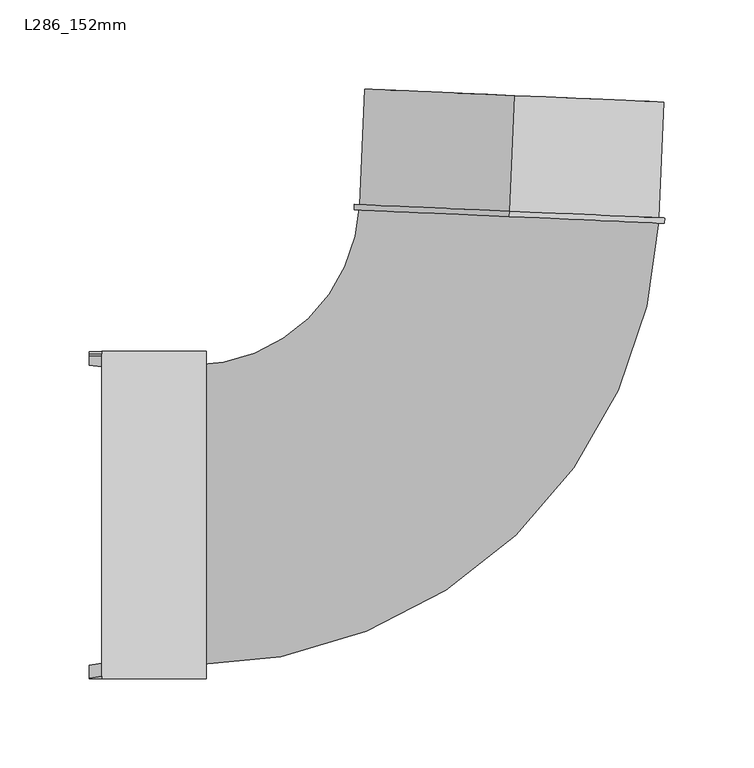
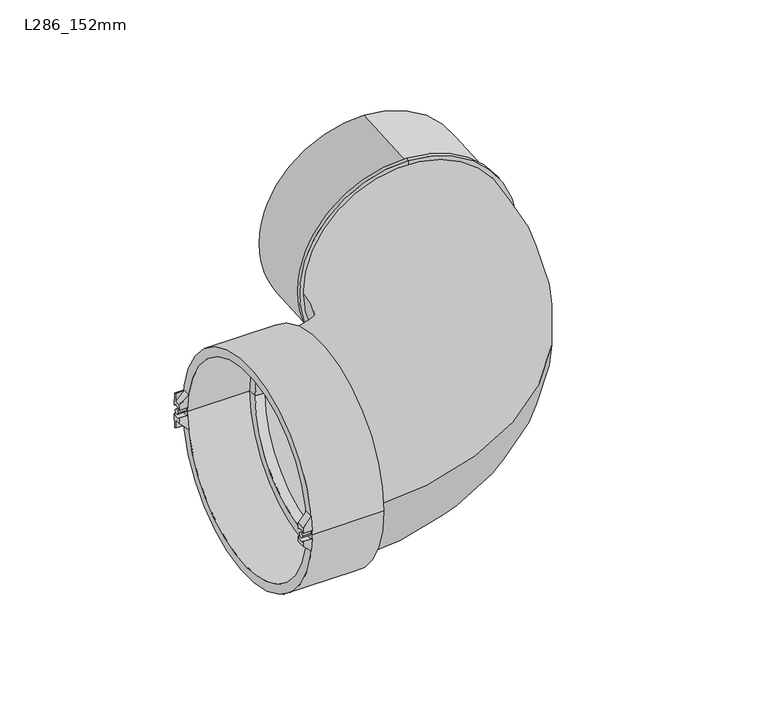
"""IFC4 building model written with IfcOpenShell, lengths in millimetres: pipe fitting geometry, Durapipe_PipeFitting_VulcatheneEnfusion_SingleSocketLongSweepBend_L28 : L286_152mm."""

from ifc_helpers import new_model, si_unit, point, frame, frame_2d, origin, place, context, project, spatial, polyline, circle_curve, ellipse_curve, trimmed, segment, composite_curve, outline, extrude, source, transform, mapped, element, save
from ifc_brep_helpers import plane_surface, cylinder_surface, revolved_surface, advanced_brep


def l286_152mm_ffb08b69(model_context):
    return source(origin(), model_context, "Body", "SolidModel", [
        advanced_brep(
        [(-228.6808468, -91.7817847, -3.5392791), (-228.6808468, -84.5817847, -3.3976752), (-228.6808468, -84.2767993, -7.94), (-228.6808468, -91.5061686, -7.94), (-221.5808468, -91.7817847, -3.5392791), (-221.5808468, -90.6168996, -15.0), (-221.5808468, -83.3103985, -15.0), (-221.5808468, -84.5817847, -3.3976752)],
        [
            (0, 1, circle_curve(frame((-228.6808468, -88.25, 0.0), z_axis=(1.0, 0.0, 0.0), x_axis=(0.0, -1.0, 0.0)), 5.0)),
            (1, 2, circle_curve(frame((-228.6808468, 0.0, 0.0), z_axis=(1.0, 0.0, 0.0), x_axis=(0.0, -1.0, 0.0)), 84.65)),
            (2, 3),
            (3, 0, circle_curve(frame((-228.6808468, 0.0, 0.0), z_axis=(-1.0, 0.0, 0.0), x_axis=(0.0, -1.0, 0.0)), 91.85)),
            (4, 5, circle_curve(frame((-221.5808468, 0.0, 0.0), z_axis=(1.0, 0.0, 0.0), x_axis=(0.0, -1.0, 0.0)), 91.85)),
            (5, 6),
            (6, 7, circle_curve(frame((-221.5808468, 0.0, 0.0), z_axis=(-1.0, 0.0, 0.0), x_axis=(0.0, -1.0, 0.0)), 84.65)),
            (7, 4, circle_curve(frame((-221.5808468, -88.25, 0.0), z_axis=(-1.0, 0.0, 0.0), x_axis=(0.0, -1.0, 0.0)), 5.0)),
            (6, 2, ellipse_curve(frame((-236.6658327, 0.0, 0.0), z_axis=(-0.7051064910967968, 0.0, -0.7091014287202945), x_axis=(0.7091014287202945, 0.0, -0.7051064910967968)), 120.0527879, 84.65)),
            (1, 7),
            (4, 0),
            (3, 5, ellipse_curve(frame((-236.6658327, 0.0, 0.0), z_axis=(0.7051064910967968, 0.0, 0.7091014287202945), x_axis=(-0.7091014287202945, 0.0, 0.7051064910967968)), 130.2640114, 91.85)),
        ],
        [
            plane_surface(frame((-228.6808468, 90.6168996, -15.0), z_axis=(-1.0, 0.0, 0.0), x_axis=(0.0, -1.0, 0.0))),
            plane_surface(frame((-221.5808468, 90.6168996, -15.0), z_axis=(1.0, 0.0, 0.0), x_axis=(0.0, 1.0, 0.0))),
            revolved_surface(polyline([(-151.53622927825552, -84.65, 0.0), (-321.7954361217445, -84.65, 0.0)]), (-221.5808468, 0.0, 0.0), (1.0, 0.0, 0.0)),
            cylinder_surface(frame((-221.5808468, 0.0, 0.0), z_axis=(-1.0, 0.0, 0.0), x_axis=(0.0, -1.0, 0.0)), 91.85),
            revolved_surface(polyline([(-228.6808468, -93.25, 0.0), (-221.5808468, -93.25, 0.0)]), (-221.5808468, -88.25, 0.0), (-1.0, 0.0, 0.0)),
            plane_surface(frame((-221.5808468, -104.876707, -15.0), z_axis=(-0.7051064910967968, 0.0, -0.7091014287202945), x_axis=(0.0, 1.0, 0.0))),
        ],
        [
            (0, [[1, 2, 3, 4]]),
            (1, [[5, 6, 7, 8]]),
            (2, [[-7, 9, -2, 10]]),
            (3, [[-5, 11, -4, 12]]),
            (4, [[-1, -11, -8, -10]]),
            (5, [[-3, -9, -6, -12]]),
        ],
    ),
        advanced_brep(
        [(-228.6808468, -84.5817847, 3.3976752), (-228.6808468, -91.7817847, 3.5392791), (-228.6808468, -91.5061686, 7.94), (-228.6808468, -84.2767993, 7.94), (-221.5808468, -90.6168996, 15.0), (-221.5808468, -91.7817847, 3.5392791), (-221.5808468, -84.5817847, 3.3976752), (-221.5808468, -83.3103985, 15.0)],
        [
            (0, 1, circle_curve(frame((-228.6808468, -88.25, 0.0), z_axis=(1.0, 0.0, 0.0), x_axis=(0.0, -1.0, 0.0)), 5.0)),
            (1, 2, circle_curve(frame((-228.6808468, 0.0, 0.0), z_axis=(-1.0, 0.0, 0.0), x_axis=(0.0, -1.0, 0.0)), 91.85)),
            (2, 3),
            (3, 0, circle_curve(frame((-228.6808468, 0.0, 0.0), z_axis=(1.0, 0.0, 0.0), x_axis=(0.0, -1.0, 0.0)), 84.65)),
            (4, 5, circle_curve(frame((-221.5808468, 0.0, 0.0), z_axis=(1.0, 0.0, 0.0), x_axis=(0.0, -1.0, 0.0)), 91.85)),
            (5, 6, circle_curve(frame((-221.5808468, -88.25, 0.0), z_axis=(-1.0, 0.0, 0.0), x_axis=(0.0, -1.0, 0.0)), 5.0)),
            (6, 7, circle_curve(frame((-221.5808468, 0.0, 0.0), z_axis=(-1.0, 0.0, 0.0), x_axis=(0.0, -1.0, 0.0)), 84.65)),
            (7, 4),
            (6, 0),
            (3, 7, ellipse_curve(frame((-236.6658327, 0.0, 0.0), z_axis=(-0.7051064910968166, 0.0, 0.7091014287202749), x_axis=(0.7091014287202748, 0.0, 0.7051064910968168)), 120.0527879, 84.65)),
            (4, 2, ellipse_curve(frame((-236.6658327, 0.0, 0.0), z_axis=(0.7051064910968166, 0.0, -0.7091014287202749), x_axis=(-0.7091014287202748, 0.0, -0.7051064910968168)), 130.2640114, 91.85)),
            (1, 5),
        ],
        [
            plane_surface(frame((-228.6808468, 90.6168996, -15.0), z_axis=(-1.0, 0.0, 0.0), x_axis=(0.0, -1.0, 0.0))),
            plane_surface(frame((-221.5808468, 90.6168996, -15.0), z_axis=(1.0, 0.0, 0.0), x_axis=(0.0, 1.0, 0.0))),
            revolved_surface(polyline([(-151.5362292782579, -84.65, 0.0), (-321.7954361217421, -84.65, 0.0)]), (-221.5808468, 0.0, 0.0), (1.0, 0.0, 0.0)),
            cylinder_surface(frame((-221.5808468, 0.0, 0.0), z_axis=(-1.0, 0.0, 0.0), x_axis=(0.0, -1.0, 0.0)), 91.85),
            revolved_surface(polyline([(-228.6808468, -93.25, 0.0), (-221.5808468, -93.25, 0.0)]), (-221.5808468, -88.25, 0.0), (-1.0, 0.0, 0.0)),
            plane_surface(frame((-228.6808468, -104.876707, 7.94), z_axis=(-0.7051064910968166, 0.0, 0.7091014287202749), x_axis=(0.0, 1.0, 0.0))),
        ],
        [
            (0, [[1, 2, 3, 4]]),
            (1, [[5, 6, 7, 8]]),
            (2, [[-7, 9, -4, 10]]),
            (3, [[-5, 11, -2, 12]]),
            (4, [[-1, -9, -6, -12]]),
            (5, [[-3, -11, -8, -10]]),
        ],
    ),
        advanced_brep(
        [(-228.6808468, 91.7817847, -3.5392791), (-228.6808468, 90.6168996, -15.0), (-228.6808468, 89.536983, -15.0), (-228.6808468, 89.536983, -7.94), (-228.6808468, 84.2767993, -7.94), (-228.6808468, 84.5817847, -3.3976752), (-221.5808468, 90.6168996, -15.0), (-221.5808468, 91.7817847, -3.5392791), (-221.5808468, 84.5817847, -3.3976752), (-221.5808468, 83.3103985, -15.0), (-221.5808468, 89.536983, -15.0)],
        [
            (0, 1, circle_curve(frame((-228.6808468, 0.0, 0.0), z_axis=(-1.0, 0.0, 0.0), x_axis=(0.0, -1.0, 0.0)), 91.85)),
            (1, 2),
            (2, 3),
            (3, 4),
            (4, 5, circle_curve(frame((-228.6808468, 0.0, 0.0), z_axis=(1.0, 0.0, 0.0), x_axis=(0.0, -1.0, 0.0)), 84.65)),
            (5, 0, circle_curve(frame((-228.6808468, 88.25, 0.0), z_axis=(1.0, 0.0, 0.0), x_axis=(0.0, -1.0, 0.0)), 5.0)),
            (6, 7, circle_curve(frame((-221.5808468, 0.0, 0.0), z_axis=(1.0, 0.0, 0.0), x_axis=(0.0, -1.0, 0.0)), 91.85)),
            (7, 8, circle_curve(frame((-221.5808468, 88.25, 0.0), z_axis=(-1.0, 0.0, 0.0), x_axis=(0.0, -1.0, 0.0)), 5.0)),
            (8, 9, circle_curve(frame((-221.5808468, 0.0, 0.0), z_axis=(-1.0, 0.0, 0.0), x_axis=(0.0, -1.0, 0.0)), 84.65)),
            (9, 10),
            (10, 6),
            (8, 5),
            (4, 9, ellipse_curve(frame((-236.6658327, 0.0, 0.0), z_axis=(-0.7051064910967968, 0.0, -0.7091014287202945), x_axis=(0.7091014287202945, 0.0, -0.7051064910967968)), 120.0527879, 84.65)),
            (6, 1),
            (0, 7),
            (3, 10),
            (10, 2),
        ],
        [
            plane_surface(frame((-228.6808468, 90.6168996, -15.0), z_axis=(-1.0, 0.0, 0.0), x_axis=(0.0, -1.0, 0.0))),
            plane_surface(frame((-221.5808468, 90.6168996, -15.0), z_axis=(1.0, 0.0, 0.0), x_axis=(0.0, 1.0, 0.0))),
            revolved_surface(polyline([(-151.53622927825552, -84.65, 0.0), (-321.7954361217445, -84.65, 0.0)]), (-221.5808468, 0.0, 0.0), (1.0, 0.0, 0.0)),
            cylinder_surface(frame((-221.5808468, 0.0, 0.0), z_axis=(-1.0, 0.0, 0.0), x_axis=(0.0, -1.0, 0.0)), 91.85),
            revolved_surface(polyline([(-228.6808468, 83.25, 0.0), (-221.5808468, 83.25, 0.0)]), (-221.5808468, 88.25, 0.0), (-1.0, 0.0, 0.0)),
            plane_surface(frame((-221.5808468, -104.876707, -15.0), z_axis=(-0.7051064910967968, 0.0, -0.7091014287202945), x_axis=(0.0, 1.0, 0.0))),
            plane_surface(frame((-228.6808468, 90.6168996, -15.0), z_axis=(0.0, 0.0, -1.0), x_axis=(1.0, 0.0, 0.0))),
            plane_surface(frame((-228.6808468, 89.536983, 7.94), z_axis=(0.0, -1.0000000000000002, 0.0), x_axis=(-0.7091014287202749, 0.0, -0.7051064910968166))),
        ],
        [
            (0, [[1, 2, 3, 4, 5, 6]]),
            (1, [[7, 8, 9, 10, 11]]),
            (2, [[-9, 12, -5, 13]]),
            (3, [[14, -1, 15, -7]]),
            (4, [[-6, -12, -8, -15]]),
            (5, [[16, -10, -13, -4]]),
            (6, [[-14, -11, 17, -2]]),
            (7, [[-16, -3, -17]]),
        ],
    ),
        advanced_brep(
        [(-228.6808468, 90.6168996, 15.0), (-228.6808468, 91.7817847, 3.5392791), (-228.6808468, 84.5817847, 3.3976752), (-228.6808468, 84.2767993, 7.94), (-228.6808468, 89.536983, 7.94), (-228.6808468, 89.536983, 15.0), (-221.5808468, 91.7817847, 3.5392791), (-221.5808468, 90.6168996, 15.0), (-221.5808468, 89.536983, 15.0), (-221.5808468, 83.3103985, 15.0), (-221.5808468, 84.5817847, 3.3976752)],
        [
            (0, 1, circle_curve(frame((-228.6808468, 0.0, 0.0), z_axis=(-1.0, 0.0, 0.0), x_axis=(0.0, -1.0, 0.0)), 91.85)),
            (1, 2, circle_curve(frame((-228.6808468, 88.25, 0.0), z_axis=(1.0, 0.0, 0.0), x_axis=(0.0, -1.0, 0.0)), 5.0)),
            (2, 3, circle_curve(frame((-228.6808468, 0.0, 0.0), z_axis=(1.0, 0.0, 0.0), x_axis=(0.0, -1.0, 0.0)), 84.65)),
            (3, 4),
            (4, 5),
            (5, 0),
            (6, 7, circle_curve(frame((-221.5808468, 0.0, 0.0), z_axis=(1.0, 0.0, 0.0), x_axis=(0.0, -1.0, 0.0)), 91.85)),
            (7, 8),
            (8, 9),
            (9, 10, circle_curve(frame((-221.5808468, 0.0, 0.0), z_axis=(-1.0, 0.0, 0.0), x_axis=(0.0, -1.0, 0.0)), 84.65)),
            (10, 6, circle_curve(frame((-221.5808468, 88.25, 0.0), z_axis=(-1.0, 0.0, 0.0), x_axis=(0.0, -1.0, 0.0)), 5.0)),
            (9, 3, ellipse_curve(frame((-236.6658327, 0.0, 0.0), z_axis=(-0.7051064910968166, 0.0, 0.7091014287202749), x_axis=(0.7091014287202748, 0.0, 0.7051064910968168)), 120.0527879, 84.65)),
            (2, 10),
            (0, 7),
            (6, 1),
            (8, 4),
            (5, 8),
        ],
        [
            plane_surface(frame((-228.6808468, 90.6168996, -15.0), z_axis=(-1.0, 0.0, 0.0), x_axis=(0.0, -1.0, 0.0))),
            plane_surface(frame((-221.5808468, 90.6168996, -15.0), z_axis=(1.0, 0.0, 0.0), x_axis=(0.0, 1.0, 0.0))),
            revolved_surface(polyline([(-151.5362292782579, -84.65, 0.0), (-321.7954361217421, -84.65, 0.0)]), (-221.5808468, 0.0, 0.0), (1.0, 0.0, 0.0)),
            cylinder_surface(frame((-221.5808468, 0.0, 0.0), z_axis=(-1.0, 0.0, 0.0), x_axis=(0.0, -1.0, 0.0)), 91.85),
            revolved_surface(polyline([(-228.6808468, 83.25, 0.0), (-221.5808468, 83.25, 0.0)]), (-221.5808468, 88.25, 0.0), (-1.0, 0.0, 0.0)),
            plane_surface(frame((-228.6808468, -104.876707, 7.94), z_axis=(-0.7051064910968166, 0.0, 0.7091014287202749), x_axis=(0.0, 1.0, 0.0))),
            plane_surface(frame((-228.6808468, 83.3103985, 15.0), z_axis=(0.0, 0.0, 1.0), x_axis=(1.0, 0.0, 0.0))),
            plane_surface(frame((-228.6808468, 89.536983, 7.94), z_axis=(0.0, -1.0000000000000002, 0.0), x_axis=(-0.7091014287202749, 0.0, -0.7051064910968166))),
        ],
        [
            (0, [[1, 2, 3, 4, 5, 6]]),
            (1, [[7, 8, 9, 10, 11]]),
            (2, [[-10, 12, -3, 13]]),
            (3, [[14, -7, 15, -1]]),
            (4, [[-2, -15, -11, -13]]),
            (5, [[16, -4, -12, -9]]),
            (6, [[-14, -6, 17, -8]]),
            (7, [[-16, -17, -5]]),
        ],
    ),
        extrude(outline(composite_curve([segment(trimmed(circle_curve(frame_2d((88.25, 0.0)), 2.0), [point((90.25, 0.0))], [point((86.25, 0.0))], False, "CARTESIAN"), True, "CONTINUOUS"), segment(trimmed(circle_curve(frame_2d((88.25, 0.0)), 2.0), [point((86.25, 0.0))], [point((90.25, 0.0))], False, "CARTESIAN"), True, "CONTINUOUS")], self_intersect=False)), frame((-228.6808468, 0.0, 0.0), z_axis=(1.0, 0.0, 0.0), x_axis=(0.0, 1.0, 0.0)), (0.0, 0.0, 1.0), 7.1),
        extrude(outline(composite_curve([segment(trimmed(circle_curve(frame_2d((-88.25, 0.0)), 2.0), [point((-86.25, 0.0))], [point((-90.25, 0.0))], False, "CARTESIAN"), True, "CONTINUOUS"), segment(trimmed(circle_curve(frame_2d((-88.25, 0.0)), 2.0), [point((-90.25, 0.0))], [point((-86.25, 0.0))], False, "CARTESIAN"), True, "CONTINUOUS")], self_intersect=False)), frame((-228.6808468, 0.0, 0.0), z_axis=(1.0, 0.0, 0.0), x_axis=(0.0, 1.0, 0.0)), (0.0, 0.0, 1.0), 7.1),
        advanced_brep(
        [(7.3184977, 167.6211566, -87.2), (7.3184977, 167.6211566, 87.2), (7.3184977, 167.6211566, 77.1), (7.3184977, 167.6211566, -77.1), (7.4493559, 170.6183013, -87.2), (7.4493559, 170.6183013, 87.2), (7.4493559, 170.6183013, -84.2), (7.4493559, 170.6183013, 84.2), (10.2846161, 235.5564357, -84.2), (10.2846161, 235.5564357, 84.2), (10.2846161, 235.5564357, -77.1), (10.2846161, 235.5564357, 77.1)],
        [
            (0, 1, circle_curve(frame((7.3184977, 167.6211566, 0.0), z_axis=(-0.04361938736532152, -0.9990482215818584, 0.0), x_axis=(0.0, 0.0, 1.0)), 87.2)),
            (1, 2),
            (2, 3, circle_curve(frame((7.3184977, 167.6211566, 0.0), z_axis=(0.04361938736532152, 0.9990482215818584, 0.0), x_axis=(0.0, 0.0, 1.0)), 77.1)),
            (3, 0),
            (1, 0, circle_curve(frame((7.3184977, 167.6211566, 0.0), z_axis=(-0.04361938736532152, -0.9990482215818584, 0.0), x_axis=(0.0, 0.0, 1.0)), 87.2)),
            (3, 2, circle_curve(frame((7.3184977, 167.6211566, 0.0), z_axis=(0.04361938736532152, 0.9990482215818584, 0.0), x_axis=(0.0, 0.0, 1.0)), 77.1)),
            (4, 5, circle_curve(frame((7.4493559, 170.6183013, 0.0), z_axis=(-0.04361938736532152, -0.9990482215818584, 0.0), x_axis=(0.0, 0.0, 1.0)), 87.2)),
            (5, 1),
            (0, 4),
            (5, 4, circle_curve(frame((7.4493559, 170.6183013, 0.0), z_axis=(-0.04361938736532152, -0.9990482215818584, 0.0), x_axis=(0.0, 0.0, 1.0)), 87.2)),
            (6, 7, circle_curve(frame((7.4493559, 170.6183013, 0.0), z_axis=(-0.04361938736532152, -0.9990482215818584, 0.0), x_axis=(0.0, 0.0, 1.0)), 84.2)),
            (7, 5),
            (4, 6),
            (7, 6, circle_curve(frame((7.4493559, 170.6183013, 0.0), z_axis=(-0.04361938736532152, -0.9990482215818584, 0.0), x_axis=(0.0, 0.0, 1.0)), 84.2)),
            (8, 9, circle_curve(frame((10.2846161, 235.5564357, 0.0), z_axis=(-0.04361938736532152, -0.9990482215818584, 0.0), x_axis=(0.0, 0.0, 1.0)), 84.2)),
            (9, 7),
            (6, 8),
            (9, 8, circle_curve(frame((10.2846161, 235.5564357, 0.0), z_axis=(-0.04361938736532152, -0.9990482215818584, 0.0), x_axis=(0.0, 0.0, 1.0)), 84.2)),
            (10, 11, circle_curve(frame((10.2846161, 235.5564357, 0.0), z_axis=(-0.04361938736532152, -0.9990482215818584, 0.0), x_axis=(0.0, 0.0, 1.0)), 77.1)),
            (11, 9),
            (8, 10),
            (11, 10, circle_curve(frame((10.2846161, 235.5564357, 0.0), z_axis=(-0.04361938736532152, -0.9990482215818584, 0.0), x_axis=(0.0, 0.0, 1.0)), 77.1)),
            (2, 11),
            (10, 3),
        ],
        [
            plane_surface(frame((7.3184977, 167.6211566, 0.0), z_axis=(-0.04361938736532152, -0.9990482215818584, 0.0), x_axis=(0.0, 0.0, 1.0))),
            cylinder_surface(frame((121.4729688, 2782.1883984, 0.0), z_axis=(0.04361938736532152, 0.9990482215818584, 0.0), x_axis=(0.0, 0.0, 1.0)), 87.2),
            plane_surface(frame((7.4493559, 170.6183013, 0.0), z_axis=(0.04361938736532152, 0.9990482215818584, 0.0), x_axis=(0.0, 0.0, 1.0))),
            cylinder_surface(frame((121.4729688, 2782.1883984, 0.0), z_axis=(0.04361938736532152, 0.9990482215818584, 0.0), x_axis=(0.0, 0.0, 1.0)), 84.2),
            plane_surface(frame((10.2846161, 235.5564357, 0.0), z_axis=(0.04361938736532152, 0.9990482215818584, 0.0), x_axis=(0.0, 0.0, 1.0))),
            revolved_surface(polyline([(10.284616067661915, 235.55643570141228, 77.1), (7.318497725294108, 167.62115659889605, 77.1)]), (121.4729688, 2782.1883984, 0.0), (0.04361938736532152, 0.9990482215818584, 0.0)),
        ],
        [
            (0, [[1, 2, 3, 4]]),
            (0, [[5, -4, 6, -2]]),
            (1, [[7, 8, -1, 9]]),
            (1, [[10, -9, -5, -8]]),
            (2, [[11, 12, -7, 13]]),
            (2, [[14, -13, -10, -12]]),
            (3, [[15, 16, -11, 17]]),
            (3, [[18, -17, -14, -16]]),
            (4, [[19, 20, -15, 21]]),
            (4, [[22, -21, -18, -20]]),
            (5, [[-3, 23, -19, 24]]),
            (5, [[-6, -24, -22, -23]]),
        ],
    ),
        advanced_brep(
        [(-162.7808468, 92.0, 0.0), (-162.7808468, -92.0, 0.0), (-221.5808468, -92.0, 0.0), (-221.5808468, 92.0, 0.0), (-162.7808468, 77.1, 0.0), (-162.7808468, -77.1, 0.0), (-170.7808468, 77.1, 0.0), (-170.7808468, -77.1, 0.0), (-170.7808468, 84.5, 0.0), (-170.7808468, -84.5, 0.0), (-221.5808468, 84.5, 0.0), (-221.5808468, -84.5, 0.0)],
        [
            (0, 1, circle_curve(frame((-162.7808468, 0.0, 0.0), z_axis=(-1.0, 0.0, 0.0), x_axis=(0.0, -1.0, 0.0)), 92.0)),
            (1, 2),
            (2, 3, circle_curve(frame((-221.5808468, 0.0, 0.0), z_axis=(1.0, 0.0, 0.0), x_axis=(0.0, -1.0, 0.0)), 92.0)),
            (3, 0),
            (1, 0, circle_curve(frame((-162.7808468, 0.0, 0.0), z_axis=(-1.0, 0.0, 0.0), x_axis=(0.0, -1.0, 0.0)), 92.0)),
            (3, 2, circle_curve(frame((-221.5808468, 0.0, 0.0), z_axis=(1.0, 0.0, 0.0), x_axis=(0.0, -1.0, 0.0)), 92.0)),
            (4, 5, circle_curve(frame((-162.7808468, 0.0, 0.0), z_axis=(-1.0, 0.0, 0.0), x_axis=(0.0, -1.0, 0.0)), 77.1)),
            (5, 1),
            (0, 4),
            (5, 4, circle_curve(frame((-162.7808468, 0.0, 0.0), z_axis=(-1.0, 0.0, 0.0), x_axis=(0.0, -1.0, 0.0)), 77.1)),
            (6, 7, circle_curve(frame((-170.7808468, 0.0, 0.0), z_axis=(-1.0, 0.0, 0.0), x_axis=(0.0, -1.0, 0.0)), 77.1)),
            (7, 5),
            (4, 6),
            (7, 6, circle_curve(frame((-170.7808468, 0.0, 0.0), z_axis=(-1.0, 0.0, 0.0), x_axis=(0.0, -1.0, 0.0)), 77.1)),
            (8, 9, circle_curve(frame((-170.7808468, 0.0, 0.0), z_axis=(-1.0, 0.0, 0.0), x_axis=(0.0, -1.0, 0.0)), 84.5)),
            (9, 7),
            (6, 8),
            (9, 8, circle_curve(frame((-170.7808468, 0.0, 0.0), z_axis=(-1.0, 0.0, 0.0), x_axis=(0.0, -1.0, 0.0)), 84.5)),
            (10, 11, circle_curve(frame((-221.5808468, 0.0, 0.0), z_axis=(-1.0, 0.0, 0.0), x_axis=(0.0, -1.0, 0.0)), 84.5)),
            (11, 9),
            (8, 10),
            (11, 10, circle_curve(frame((-221.5808468, 0.0, 0.0), z_axis=(-1.0, 0.0, 0.0), x_axis=(0.0, -1.0, 0.0)), 84.5)),
            (2, 11),
            (10, 3),
        ],
        [
            cylinder_surface(frame((1571.2518184, 0.0, 0.0), z_axis=(1.0, 0.0, 0.0), x_axis=(0.0, -1.0, 0.0)), 92.0),
            plane_surface(frame((-162.7808468, 0.0, 0.0), z_axis=(1.0, 0.0, 0.0), x_axis=(0.0, -1.0, 0.0))),
            revolved_surface(polyline([(-162.78084680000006, -77.1, 0.0), (-170.78084680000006, -77.1, 0.0)]), (1571.2518184, 0.0, 0.0), (1.0, 0.0, 0.0)),
            plane_surface(frame((-170.7808468, 0.0, 0.0), z_axis=(-1.0, 0.0, 0.0), x_axis=(0.0, -1.0, 0.0))),
            revolved_surface(polyline([(-170.78084680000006, -84.5, 0.0), (-221.58084680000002, -84.5, 0.0)]), (1571.2518184, 0.0, 0.0), (1.0, 0.0, 0.0)),
            plane_surface(frame((-221.5808468, 0.0, 0.0), z_axis=(-1.0, 0.0, 0.0), x_axis=(0.0, -1.0, 0.0))),
        ],
        [
            (0, [[1, 2, 3, 4]]),
            (0, [[5, -4, 6, -2]]),
            (1, [[7, 8, -1, 9]]),
            (1, [[10, -9, -5, -8]]),
            (2, [[11, 12, -7, 13]]),
            (2, [[14, -13, -10, -12]]),
            (3, [[15, 16, -11, 17]]),
            (3, [[18, -17, -14, -16]]),
            (4, [[19, 20, -15, 21]]),
            (4, [[22, -21, -18, -20]]),
            (5, [[-3, 23, -19, 24]]),
            (5, [[-6, -24, -22, -23]]),
        ],
    ),
        advanced_brep(
        [(-170.7808468, -84.2, 0.0), (-170.7808468, 84.2, 0.0), (-170.7808468, -77.1, 0.0), (-170.7808468, 77.1, 0.0), (91.5692162, 166.9455489, 0.0), (-76.6705043, 174.2910537, 0.0), (84.4759738, 167.2552465, 0.0), (-69.577262, 173.9813561, 0.0)],
        [
            (0, 1, circle_curve(frame((-170.7808468, 0.0, 0.0), z_axis=(-1.0, 0.0, 0.0), x_axis=(0.0, 1.0, 0.0)), 84.2)),
            (1, 0, circle_curve(frame((-170.7808468, 0.0, 0.0), z_axis=(-1.0, 0.0, 0.0), x_axis=(0.0, 1.0, 0.0)), 84.2)),
            (2, 3, circle_curve(frame((-170.7808468, 0.0, 0.0), z_axis=(1.0, 0.0, 0.0), x_axis=(0.0, 1.0, 0.0)), 77.1)),
            (3, 2, circle_curve(frame((-170.7808468, 0.0, 0.0), z_axis=(1.0, 0.0, 0.0), x_axis=(0.0, 1.0, 0.0)), 77.1)),
            (4, 5, circle_curve(frame((7.4493559, 170.6183013, 0.0), z_axis=(0.043619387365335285, 0.9990482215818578, 0.0), x_axis=(-0.9990482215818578, 0.043619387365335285, 0.0)), 84.2)),
            (5, 4, circle_curve(frame((7.4493559, 170.6183013, 0.0), z_axis=(0.043619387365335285, 0.9990482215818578, 0.0), x_axis=(-0.9990482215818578, 0.043619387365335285, 0.0)), 84.2)),
            (6, 7, circle_curve(frame((7.4493559, 170.6183013, 0.0), z_axis=(-0.043619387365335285, -0.9990482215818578, 0.0), x_axis=(-0.9990482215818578, 0.043619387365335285, 0.0)), 77.1)),
            (7, 6, circle_curve(frame((7.4493559, 170.6183013, 0.0), z_axis=(-0.043619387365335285, -0.9990482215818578, 0.0), x_axis=(-0.9990482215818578, 0.043619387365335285, 0.0)), 77.1)),
            (7, 3, circle_curve(frame((-170.7808468, 178.4, 0.0), z_axis=(0.0, 0.0, -1.0), x_axis=(0.0, -1.0, 0.0)), 101.3)),
            (2, 6, circle_curve(frame((-170.7808468, 178.4, 0.0), z_axis=(0.0, 0.0, 1.0), x_axis=(0.0, -1.0, 0.0)), 255.5)),
            (5, 1, circle_curve(frame((-170.7808468, 178.4, 0.0), z_axis=(0.0, 0.0, -1.0), x_axis=(0.0, -1.0, 0.0)), 94.2)),
            (0, 4, circle_curve(frame((-170.7808468, 178.4, 0.0), z_axis=(0.0, 0.0, 1.0), x_axis=(0.0, -1.0, 0.0)), 262.6)),
        ],
        [
            plane_surface(frame((-170.7808468, 0.0, 0.0), z_axis=(-1.0, 0.0, 0.0), x_axis=(0.0, 0.0, 1.0))),
            plane_surface(frame((7.4493559, 170.6183013, 0.0), z_axis=(0.043619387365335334, 0.9990482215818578, 0.0), x_axis=(0.0, 0.0, 1.0))),
            revolved_surface(trimmed(ellipse_curve(frame((-170.7808468, 0.0, 0.0), z_axis=(1.0, 0.0, 0.0), x_axis=(0.0, 1.0, 0.0)), 77.1, 77.1), [point((-170.7808468, -77.1, 0.0))], [point((-170.7808468, 77.1, 0.0))], True, "CARTESIAN"), (-170.7808468, 178.4, 0.0), (0.0, 0.0, 1.0)),
            revolved_surface(trimmed(ellipse_curve(frame((-170.7808468, 0.0, 0.0), z_axis=(1.0, 0.0, 0.0), x_axis=(0.0, 1.0, 0.0)), 77.1, 77.1), [point((-170.7808468, 77.1, 0.0))], [point((-170.7808468, -77.1, 0.0))], True, "CARTESIAN"), (-170.7808468, 178.4, 0.0), (0.0, 0.0, 1.0)),
            revolved_surface(trimmed(ellipse_curve(frame((-170.7808468, 0.0, 0.0), z_axis=(-1.0, 0.0, 0.0), x_axis=(0.0, 1.0, 0.0)), 84.2, 84.2), [point((-170.7808468, -84.2, 0.0))], [point((-170.7808468, 84.2, 0.0))], True, "CARTESIAN"), (-170.7808468, 178.4, 0.0), (0.0, 0.0, 1.0)),
            revolved_surface(trimmed(ellipse_curve(frame((-170.7808468, 0.0, 0.0), z_axis=(-1.0, 0.0, 0.0), x_axis=(0.0, 1.0, 0.0)), 84.2, 84.2), [point((-170.7808468, 84.2, 0.0))], [point((-170.7808468, -84.2, 0.0))], True, "CARTESIAN"), (-170.7808468, 178.4, 0.0), (0.0, 0.0, 1.0)),
        ],
        [
            (0, [[1, 2], [3, 4]]),
            (1, [[5, 6], [7, 8]]),
            (2, [[9, -3, 10, -8]]),
            (3, [[-10, -4, -9, -7]]),
            (4, [[11, -1, 12, -6]]),
            (5, [[-12, -2, -11, -5]]),
        ],
    ),
    ])


if __name__ == "__main__":
    model = new_model("IFC4")
    model_context = context("Model", 3, world=origin())
    ifc_project = project(units=[si_unit("LENGTHUNIT", "METRE", prefix="MILLI")], contexts=[model_context])
    site = spatial("IfcSite", under=ifc_project)
    building = spatial("IfcBuilding", under=site)
    placement = place(None, origin())
    l286_152mm_shape = l286_152mm_ffb08b69(model_context)
    element("IfcPipeFitting", 1, ObjectType="Durapipe_PipeFitting_VulcatheneEnfusion_SingleSocketLongSweepBend_L28 : L286_152mm", at=placement, inside=building, context=model_context, shape_type="MappedRepresentation", body=[
        mapped(l286_152mm_shape, transform((0.0, 0.0, 0.0), x_axis=(1.0, 0.0, 0.0), y_axis=(0.0, 1.0, 0.0), z_axis=(0.0, 0.0, 1.0))),
    ])
    save(model, "model.ifc")
